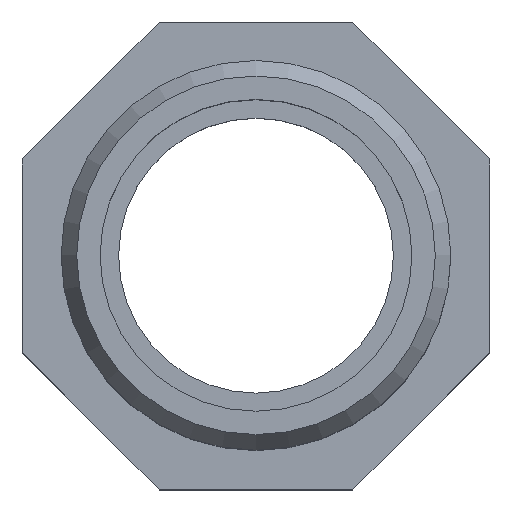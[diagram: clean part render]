
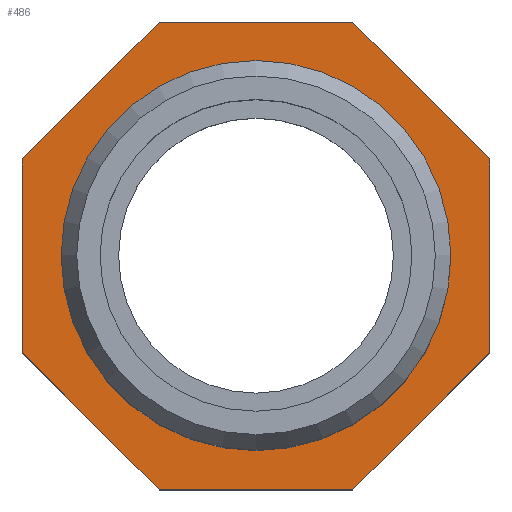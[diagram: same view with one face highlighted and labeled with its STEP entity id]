
A CAD part, top view. The second image highlights one B-rep face of the part: STEP entity #486.
In plain terms, the highlighted planar face has unit normal (0, 0, 1).
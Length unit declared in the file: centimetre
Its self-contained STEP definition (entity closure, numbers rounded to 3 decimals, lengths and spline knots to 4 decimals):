
#18=LINE('',#4101,#45);
#22=LINE('',#4109,#49);
#25=LINE('',#4115,#52);
#28=LINE('',#4121,#55);
#31=LINE('',#4127,#58);
#34=LINE('',#4133,#61);
#37=LINE('',#4139,#64);
#40=LINE('',#4144,#67);
#45=VECTOR('',#582,1.2426);
#49=VECTOR('',#588,1.2426);
#52=VECTOR('',#593,1.2426);
#55=VECTOR('',#598,1.2426);
#58=VECTOR('',#603,1.2426);
#61=VECTOR('',#608,1.2426);
#64=VECTOR('',#613,1.2426);
#67=VECTOR('',#618,1.2426);
#98=PLANE('',#524);
#109=FACE_BOUND('',#178,.T.);
#140=FACE_OUTER_BOUND('',#177,.T.);
#177=EDGE_LOOP('',(#397,#398,#399,#400,#401,#402,#403,#404));
#178=EDGE_LOOP('',(#405));
#204=CIRCLE('',#508,1.25);
#227=VERTEX_POINT('',#732);
#235=VERTEX_POINT('',#4099);
#236=VERTEX_POINT('',#4100);
#239=VERTEX_POINT('',#4108);
#241=VERTEX_POINT('',#4114);
#243=VERTEX_POINT('',#4120);
#245=VERTEX_POINT('',#4126);
#247=VERTEX_POINT('',#4132);
#249=VERTEX_POINT('',#4138);
#269=EDGE_CURVE('',#227,#227,#204,.T.);
#283=EDGE_CURVE('',#235,#236,#18,.T.);
#287=EDGE_CURVE('',#239,#235,#22,.T.);
#290=EDGE_CURVE('',#241,#239,#25,.T.);
#293=EDGE_CURVE('',#243,#241,#28,.T.);
#296=EDGE_CURVE('',#245,#243,#31,.T.);
#299=EDGE_CURVE('',#247,#245,#34,.T.);
#302=EDGE_CURVE('',#249,#247,#37,.T.);
#305=EDGE_CURVE('',#236,#249,#40,.T.);
#397=ORIENTED_EDGE('',*,*,#305,.F.);
#398=ORIENTED_EDGE('',*,*,#283,.F.);
#399=ORIENTED_EDGE('',*,*,#287,.F.);
#400=ORIENTED_EDGE('',*,*,#290,.F.);
#401=ORIENTED_EDGE('',*,*,#293,.F.);
#402=ORIENTED_EDGE('',*,*,#296,.F.);
#403=ORIENTED_EDGE('',*,*,#299,.F.);
#404=ORIENTED_EDGE('',*,*,#302,.F.);
#405=ORIENTED_EDGE('',*,*,#269,.F.);
#486=ADVANCED_FACE('',(#140,#109),#98,.T.);
#508=AXIS2_PLACEMENT_3D('',#733,#563,#564);
#524=AXIS2_PLACEMENT_3D('',#4147,#622,#623);
#563=DIRECTION('center_axis',(0.,0.,1.));
#564=DIRECTION('ref_axis',(1.,0.,0.));
#582=DIRECTION('',(1.,0.,0.));
#588=DIRECTION('',(0.707,0.707,0.));
#593=DIRECTION('',(0.,1.,0.));
#598=DIRECTION('',(-0.707,0.707,0.));
#603=DIRECTION('',(-1.,0.,0.));
#608=DIRECTION('',(-0.707,-0.707,0.));
#613=DIRECTION('',(0.,-1.,0.));
#618=DIRECTION('',(0.707,-0.707,0.));
#622=DIRECTION('center_axis',(0.,0.,1.));
#623=DIRECTION('ref_axis',(1.,0.,0.));
#732=CARTESIAN_POINT('',(0.848,-0.003,0.5233));
#733=CARTESIAN_POINT('Origin',(-0.402,-0.003,
0.5233));
#4099=CARTESIAN_POINT('',(-1.0233,1.497,0.5233));
#4100=CARTESIAN_POINT('',(0.2193,1.497,0.5233));
#4101=CARTESIAN_POINT('',(-1.0233,1.497,0.5233));
#4108=CARTESIAN_POINT('',(-1.902,0.6183,0.5233));
#4109=CARTESIAN_POINT('',(-1.902,0.6183,0.5233));
#4114=CARTESIAN_POINT('',(-1.902,-0.6243,0.5233));
#4115=CARTESIAN_POINT('',(-1.902,-0.6243,0.5233));
#4120=CARTESIAN_POINT('',(-1.0233,-1.503,0.5233));
#4121=CARTESIAN_POINT('',(-1.0233,-1.503,0.5233));
#4126=CARTESIAN_POINT('',(0.2193,-1.503,0.5233));
#4127=CARTESIAN_POINT('',(0.2193,-1.503,0.5233));
#4132=CARTESIAN_POINT('',(1.098,-0.6243,0.5233));
#4133=CARTESIAN_POINT('',(1.098,-0.6243,0.5233));
#4138=CARTESIAN_POINT('',(1.098,0.6183,0.5233));
#4139=CARTESIAN_POINT('',(1.098,0.6183,0.5233));
#4144=CARTESIAN_POINT('',(0.2193,1.497,0.5233));
#4147=CARTESIAN_POINT('Origin',(0.848,-0.003,
0.5233));
